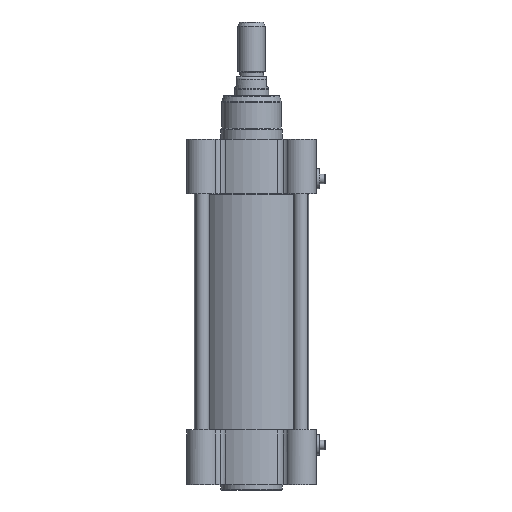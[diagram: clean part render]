
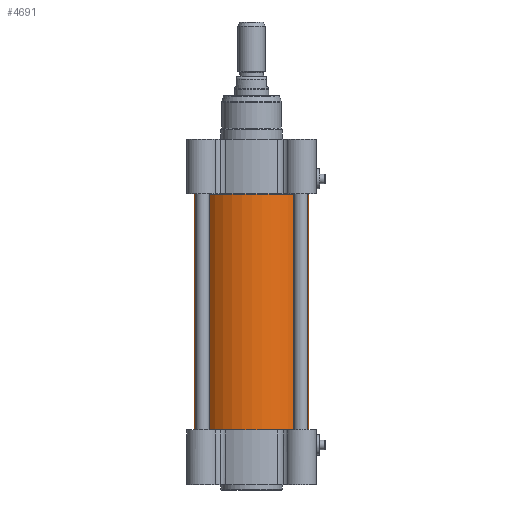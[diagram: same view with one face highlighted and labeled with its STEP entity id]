
A CAD part, front view. The second image highlights one B-rep face of the part: STEP entity #4691.
In plain terms, the highlighted cylindrical face has radius 42 mm (diameter 84 mm), a partial arc.
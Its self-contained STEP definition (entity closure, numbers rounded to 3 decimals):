
#594 = ORIENTED_EDGE ( 'NONE', *, *, #2006, .F. ) ;
#1082 = ORIENTED_EDGE ( 'NONE', *, *, #11909, .F. ) ;
#1920 = AXIS2_PLACEMENT_3D ( 'NONE', #6189, #2221, #8743 ) ;
#2006 = EDGE_CURVE ( 'NONE', #26029, #6721, #20753, .T. ) ;
#2221 = DIRECTION ( 'NONE',  ( 0., 0., 1. ) ) ;
#3234 = VERTEX_POINT ( 'NONE', #24463 ) ;
#3633 = DIRECTION ( 'NONE',  ( 0., 0., -1. ) ) ;
#4691 = ADVANCED_FACE ( 'NONE', ( #21716 ), #26093, .T. ) ;
#6043 = DIRECTION ( 'NONE',  ( 0., 0., 1. ) ) ;
#6189 = CARTESIAN_POINT ( 'NONE',  ( 0., 0., 0. ) ) ;
#6721 = VERTEX_POINT ( 'NONE', #7324 ) ;
#7105 = EDGE_CURVE ( 'NONE', #26029, #13843, #11090, .T. ) ;
#7324 = CARTESIAN_POINT ( 'NONE',  ( -42., 0., 0.2 ) ) ;
#8188 = EDGE_LOOP ( 'NONE', ( #594, #22724, #27283, #1082 ) ) ;
#8460 = AXIS2_PLACEMENT_3D ( 'NONE', #20305, #3633, #14737 ) ;
#8550 = CARTESIAN_POINT ( 'NONE',  ( 42., 0., 0.2 ) ) ;
#8690 = DIRECTION ( 'NONE',  ( 0., 0., 1. ) ) ;
#8743 = DIRECTION ( 'NONE',  ( -1., 0., 0. ) ) ;
#10250 = AXIS2_PLACEMENT_3D ( 'NONE', #26043, #8690, #10564 ) ;
#10564 = DIRECTION ( 'NONE',  ( -1., 0., 0. ) ) ;
#10768 = CARTESIAN_POINT ( 'NONE',  ( -42., 0., 0. ) ) ;
#11090 = LINE ( 'NONE', #19910, #23382 ) ;
#11909 = EDGE_CURVE ( 'NONE', #6721, #3234, #21428, .T. ) ;
#13843 = VERTEX_POINT ( 'NONE', #25449 ) ;
#14737 = DIRECTION ( 'NONE',  ( -1., 0., 0. ) ) ;
#18247 = EDGE_CURVE ( 'NONE', #3234, #13843, #22524, .T. ) ;
#18892 = VECTOR ( 'NONE', #6043, 1000. ) ;
#19910 = CARTESIAN_POINT ( 'NONE',  ( 42., 0., 0. ) ) ;
#20305 = CARTESIAN_POINT ( 'NONE',  ( 0., 0., 0.2 ) ) ;
#20753 = CIRCLE ( 'NONE', #8460, 42. ) ;
#21428 = LINE ( 'NONE', #10768, #18892 ) ;
#21716 = FACE_OUTER_BOUND ( 'NONE', #8188, .T. ) ;
#22524 = CIRCLE ( 'NONE', #10250, 42. ) ;
#22724 = ORIENTED_EDGE ( 'NONE', *, *, #7105, .T. ) ;
#23382 = VECTOR ( 'NONE', #26154, 1000. ) ;
#24463 = CARTESIAN_POINT ( 'NONE',  ( -42., 0., 172.8 ) ) ;
#25449 = CARTESIAN_POINT ( 'NONE',  ( 42., 0., 172.8 ) ) ;
#26029 = VERTEX_POINT ( 'NONE', #8550 ) ;
#26043 = CARTESIAN_POINT ( 'NONE',  ( 0., 0., 172.8 ) ) ;
#26093 = CYLINDRICAL_SURFACE ( 'NONE', #1920, 42. ) ;
#26154 = DIRECTION ( 'NONE',  ( 0., 0., 1. ) ) ;
#27283 = ORIENTED_EDGE ( 'NONE', *, *, #18247, .F. ) ;
